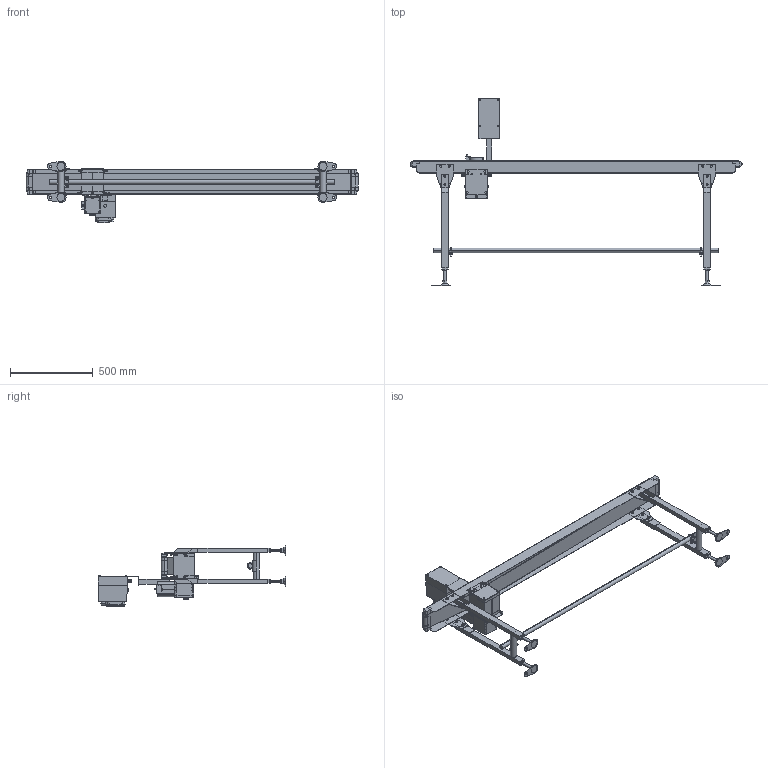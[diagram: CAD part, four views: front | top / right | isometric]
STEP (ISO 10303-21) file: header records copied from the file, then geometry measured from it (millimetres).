
FILE_DESCRIPTION (( 'STEP AP214' ), '1' );
FILE_NAME ('FSDHS-100-2000-R.STEP', '2023-04-20T23:31:36', ( '' ), ( '' ), 'SwSTEP 2.0', 'SolidWorks 2017', '' );
FILE_SCHEMA (( 'AUTOMOTIVE_DESIGN' ));
Length unit declared in the file: millimetre
Products named in the file (1): FSDHS-100-2000-R
Bounding box: 2001.4 x 1131 x 369.99 mm (x, y, z)
Volume: 14152386.2 mm3; surface area: 3484223.3 mm2
Topology: 48 solids, 54 shells, 2266 faces, 5572 edges, 3646 vertices
Faces by surface type: plane 1470, cylinder 733, cone 45, bspline 14, torus 4
Entity records: 94319 total; most frequent: CARTESIAN_POINT 13679, DIRECTION 11636, ORIENTED_EDGE 11124, EDGE_CURVE 5562, AXIS2_PLACEMENT_3D 3894, LINE 3848, VECTOR 3848, VERTEX_POINT 3646
